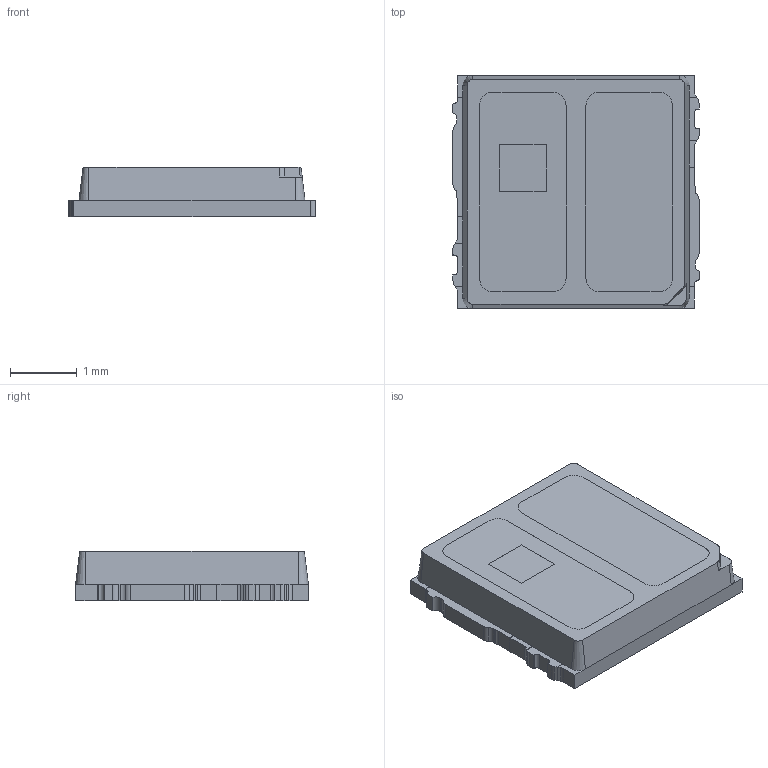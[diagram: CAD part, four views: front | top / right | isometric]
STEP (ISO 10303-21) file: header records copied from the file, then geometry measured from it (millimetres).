
FILE_DESCRIPTION (( 'STEP AP214' ), '1' );
FILE_NAME ('LAWD-BA.STEP', '2025-04-24T00:22:02', ( '' ), ( '' ), 'SwSTEP 2.0', 'SolidWorks 2022', '' );
FILE_SCHEMA (( 'AUTOMOTIVE_DESIGN' ));
Length unit declared in the file: millimetre
Products named in the file (1): LAWD-BA
Bounding box: 3.7 x 3.5 x 0.75 mm (x, y, z)
Volume: 8.9 mm3; surface area: 62 mm2
Topology: 5 solids, 5 shells, 281 faces, 784 edges, 516 vertices
Faces by surface type: plane 191, cylinder 78, bspline 8, cone 4
Entity records: 9876 total; most frequent: CARTESIAN_POINT 1794, ORIENTED_EDGE 1568, DIRECTION 1472, EDGE_CURVE 784, LINE 604, VECTOR 604, VERTEX_POINT 516, AXIS2_PLACEMENT_3D 434
